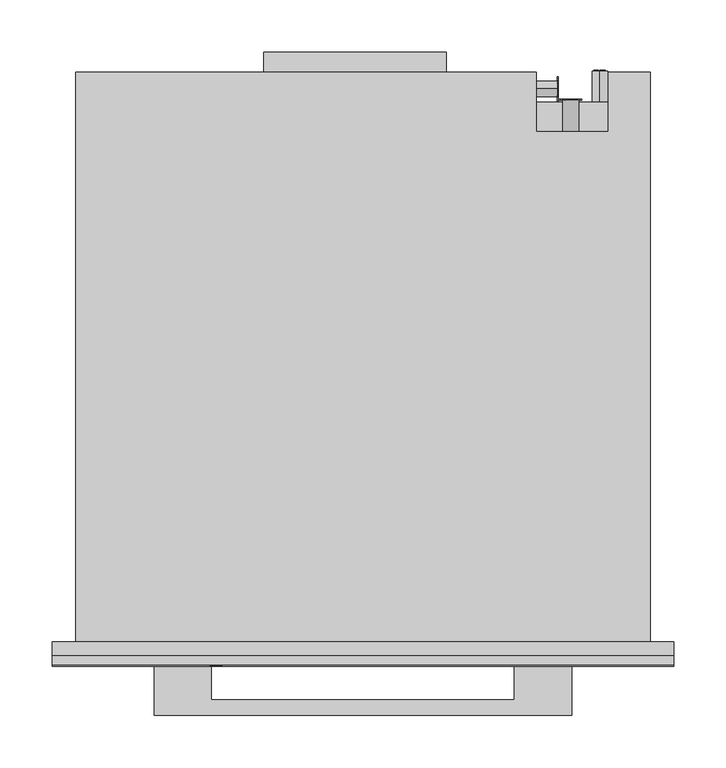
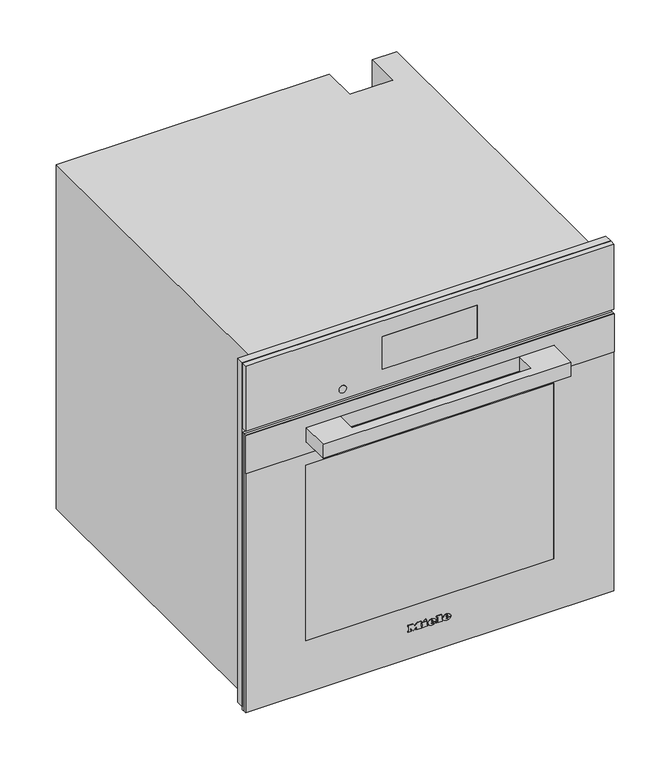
"""IFC4 building model written with IfcOpenShell, lengths in millimetres: proxy geometry, 11877020_USA_DGC7865_EDST-CLST : 23786543_USA_11877020_DGC7865_EDST-CLST."""

from ifc_helpers import new_model, si_unit, point, frame, frame_2d, origin, place, context, project, spatial, polyline, circle_curve, ellipse_curve, trimmed, segment, composite_curve, outline, extrude, faceted_brep, source, transform, mapped, element, save
from ifc_brep_helpers import plane_surface, cylinder_surface, revolved_surface, extruded_surface, advanced_brep


def specialty_equipment_5517ea6e(model_context):
    return source(origin(), model_context, "Body", "SolidModel", [
        extrude(outline(polyline([(596.0, 297.5), (596.0, -297.5), (9.0, -297.5), (9.0, 297.5), (596.0, 297.5)]), holes=[polyline([(485.0, -272.5), (485.0, 272.5), (27.0, 272.5), (27.0, -272.5), (485.0, -272.5)])]), frame((0.0, -13.0, 0.0), z_axis=(0.0, 1.0, 0.0), x_axis=(0.0, 0.0, 1.0)), (0.0, 0.0, 1.0), 13.0),
        extrude(outline(polyline([(-95.0, 565.0), (80.0, 565.0), (80.0, 546.0), (-95.0, 546.0), (-95.0, 565.0)])), frame((0.0, 0.0, 311.0), z_axis=(0.0, 0.0, 1.0), x_axis=(1.0, 0.0, 0.0)), (0.0, 0.0, 1.0), 1.0),
        extrude(outline(polyline([(519.6429442, 19.9943805), (518.3113439, 19.9943805), (522.3179353, 30.0448542), (523.3959224, 30.0448542), (527.4062166, 20.0), (526.0536081, 20.0), (524.9175759, 23.121223), (520.7810217, 23.121223), (519.6429442, 19.9943805)]), holes=[polyline([(521.2587176, 24.4336815), (524.43988, 24.4336815), (522.8492988, 28.8037675), (521.2587176, 24.4336815)])]), frame((186.0, 0.0, 0.0), z_axis=(1.0, 0.0, 0.0), x_axis=(0.0, 1.0, 0.0)), (0.0, 0.0, 1.0), 1.0),
        extrude(outline(polyline([(530.5321321, 20.0), (527.8018067, 30.0490432), (529.0968223, 30.0490432), (531.1602937, 21.4201336), (533.686646, 30.0556718), (535.5455392, 30.0556718), (538.1024658, 21.4662572), (540.1658975, 30.0556718), (541.4634812, 30.0556718), (538.7128319, 20.0), (537.3799359, 20.0), (534.6350025, 28.8403806), (532.048723, 20.0), (530.5321321, 20.0)])), frame((186.0, 0.0, 0.0), z_axis=(1.0, 0.0, 0.0), x_axis=(0.0, 1.0, 0.0)), (0.0, 0.0, 1.0), 1.0),
        extrude(outline(polyline([(523.0, 196.9217896), (523.0, 198.4267862), (533.0435673, 201.1942402), (533.0435673, 199.9014806), (524.4295103, 197.7797951), (533.0470645, 195.3087512), (533.0470645, 193.4373937), (524.4121052, 190.9191482), (533.0472266, 188.8443938), (533.0472266, 187.5376524), (523.0, 190.2769667), (523.0, 191.6257455), (531.8347238, 194.3884733), (523.0, 196.9217896)])), frame((0.0, 519.0, 0.0), z_axis=(0.0, 1.0, 0.0), x_axis=(0.0, 0.0, 1.0)), (0.0, 0.0, 1.0), 1.0),
        extrude(outline(polyline([(533.0468463, 209.521488), (533.0468463, 208.2566067), (528.129594, 208.2566067), (533.0474898, 203.1074328), (533.0474898, 201.3597489), (528.9313111, 205.6695027), (523.0, 201.1858157), (523.0, 202.7358731), (528.0700777, 206.5685235), (526.4282746, 208.2823622), (523.0, 208.2823622), (523.0, 209.521488), (533.0468463, 209.521488)])), frame((0.0, 519.0, 0.0), z_axis=(0.0, 1.0, 0.0), x_axis=(0.0, 0.0, 1.0)), (0.0, 0.0, 1.0), 1.0),
        advanced_brep(
        [(227.0, 547.0, 396.5), (227.0, 547.0, 381.5), (221.4098301, 547.0, 384.0), (225.5, 547.0, 384.0), (225.5, 547.0, 394.0), (224.4955303, 547.0, 394.0), (224.4955303, 547.0, 385.0), (221.0315043, 547.0, 385.0), (221.0315043, 547.0, 384.4582978), (232.0, 547.0, 384.0), (232.0, 547.0, 394.0), (227.0, 547.0, 394.0), (227.0, 547.0, 393.0), (231.0, 547.0, 393.0), (231.0, 547.0, 389.5), (228.0, 547.0, 389.5), (228.0, 547.0, 388.5), (231.0, 547.0, 388.5), (231.0, 547.0, 385.0), (227.0, 547.0, 385.0), (227.0, 547.0, 384.0), (227.0, 517.0, 381.5), (227.0, 517.0, 396.5), (232.0, 548.0, 394.0), (232.0, 548.0, 384.0), (227.0, 548.0, 384.0), (227.0, 548.0, 385.0), (231.0, 548.0, 385.0), (231.0, 548.0, 388.5), (228.0, 548.0, 388.5), (228.0, 548.0, 389.5), (231.0, 548.0, 389.5), (231.0, 548.0, 393.0), (227.0, 548.0, 393.0), (227.0, 548.0, 394.0), (225.5, 548.0, 384.0), (221.0315043, 548.0, 384.0), (221.0315043, 548.0, 385.0), (224.4955303, 548.0, 385.0), (224.4955303, 548.0, 394.0), (225.5, 548.0, 394.0), (221.0315043, 547.0, 384.0)],
        [
            (0, 1, circle_curve(frame((227.0, 547.0, 389.0), z_axis=(0.0, 1.0, 0.0), x_axis=(0.0, 0.0, 1.0)), 7.5)),
            (1, 2, circle_curve(frame((227.0, 547.0, 389.0), z_axis=(0.0, 1.0, 0.0), x_axis=(0.0, 0.0, 1.0)), 7.5)),
            (2, 3),
            (3, 4),
            (4, 5),
            (5, 6),
            (6, 7),
            (7, 8),
            (8, 0, circle_curve(frame((227.0, 547.0, 389.0), z_axis=(0.0, 1.0, 0.0), x_axis=(0.0, 0.0, 1.0)), 7.5)),
            (9, 10),
            (10, 11),
            (11, 12),
            (12, 13),
            (13, 14),
            (14, 15),
            (15, 16),
            (16, 17),
            (17, 18),
            (18, 19),
            (19, 20),
            (20, 9),
            (21, 22, circle_curve(frame((227.0, 517.0, 389.0), z_axis=(0.0, -1.0, 0.0), x_axis=(0.0, 0.0, 1.0)), 7.5)),
            (22, 21, circle_curve(frame((227.0, 517.0, 389.0), z_axis=(0.0, -1.0, 0.0), x_axis=(0.0, 0.0, 1.0)), 7.5)),
            (0, 22),
            (21, 1),
            (8, 2, circle_curve(frame((227.0, 547.0, 389.0), z_axis=(0.0, -1.0, 0.0), x_axis=(0.0, 0.0, 1.0)), 7.5)),
            (23, 24),
            (24, 25),
            (25, 26),
            (26, 27),
            (27, 28),
            (28, 29),
            (29, 30),
            (30, 31),
            (31, 32),
            (32, 33),
            (33, 34),
            (34, 23),
            (35, 36),
            (36, 37),
            (37, 38),
            (38, 39),
            (39, 40),
            (40, 35),
            (8, 41),
            (41, 2),
            (23, 10),
            (9, 24),
            (20, 25),
            (19, 26),
            (18, 27),
            (17, 28),
            (16, 29),
            (15, 30),
            (14, 31),
            (13, 32),
            (12, 33),
            (11, 34),
            (35, 3),
            (41, 36),
            (7, 37),
            (6, 38),
            (5, 39),
            (4, 40),
        ],
        [
            plane_surface(frame((227.0, 547.0, 396.5), z_axis=(0.0, 1.0, 0.0), x_axis=(1.0, 0.0, 0.0))),
            plane_surface(frame((227.0, 517.0, 396.5), z_axis=(0.0, -1.0, 0.0), x_axis=(-1.0, 0.0, 0.0))),
            cylinder_surface(frame((227.0, 547.0, 389.0), z_axis=(0.0, -1.0, 0.0), x_axis=(0.0, 0.0, 1.0)), 7.5),
            plane_surface(frame((232.0, 548.0, 394.0), z_axis=(0.0, 1.0, 0.0), x_axis=(0.0, 0.0, -1.0))),
            plane_surface(frame((232.0, 547.0, 394.0), z_axis=(0.0, -1.0, 0.0), x_axis=(0.0, 0.0, 1.0))),
            plane_surface(frame((232.0, 548.0, 394.0), z_axis=(1.0, 0.0, 0.0), x_axis=(0.0, -1.0, 0.0))),
            plane_surface(frame((232.0, 548.0, 384.0), z_axis=(0.0, 0.0, -1.0), x_axis=(0.0, -1.0, 0.0))),
            plane_surface(frame((227.0, 548.0, 384.0), z_axis=(-1.0, 0.0, 0.0), x_axis=(0.0, -1.0, 0.0))),
            plane_surface(frame((227.0, 548.0, 385.0), z_axis=(0.0, 0.0, 1.0), x_axis=(0.0, -1.0, 0.0))),
            plane_surface(frame((231.0, 548.0, 385.0), z_axis=(-1.0, 0.0, 0.0), x_axis=(0.0, -1.0, 0.0))),
            plane_surface(frame((231.0, 548.0, 388.5), z_axis=(0.0, 0.0, -1.0), x_axis=(0.0, -1.0, 0.0))),
            plane_surface(frame((228.0, 548.0, 388.5), z_axis=(-1.0, 0.0, 0.0), x_axis=(0.0, -1.0, 0.0))),
            plane_surface(frame((228.0, 548.0, 389.5), z_axis=(0.0, 0.0, 1.0), x_axis=(0.0, -1.0, 0.0))),
            plane_surface(frame((231.0, 548.0, 389.5), z_axis=(-1.0, 0.0, 0.0), x_axis=(0.0, -1.0, 0.0))),
            plane_surface(frame((231.0, 548.0, 393.0), z_axis=(0.0, 0.0, -1.0), x_axis=(0.0, -1.0, 0.0))),
            plane_surface(frame((227.0, 548.0, 393.0), z_axis=(-1.0, 0.0, 0.0), x_axis=(0.0, -1.0, 0.0))),
            plane_surface(frame((227.0, 548.0, 394.0), z_axis=(0.0, 0.0, 1.0), x_axis=(0.0, -1.0, 0.0))),
            plane_surface(frame((225.5, 548.0, 384.0), z_axis=(0.0, 0.0, -1.0), x_axis=(0.0, -1.0, 0.0))),
            plane_surface(frame((221.0315043, 548.0, 384.0), z_axis=(-1.0, 0.0, 0.0), x_axis=(0.0, -1.0, 0.0))),
            plane_surface(frame((221.0315043, 548.0, 385.0), z_axis=(0.0, 0.0, 1.0), x_axis=(0.0, -1.0, 0.0))),
            plane_surface(frame((224.4955303, 548.0, 385.0), z_axis=(-1.0, 0.0, 0.0), x_axis=(0.0, -1.0, 0.0))),
            plane_surface(frame((224.4955303, 548.0, 394.0), z_axis=(0.0, 0.0, 1.0), x_axis=(0.0, -1.0, 0.0))),
            plane_surface(frame((225.5, 548.0, 394.0), z_axis=(1.0, 0.0, 0.0), x_axis=(0.0, -1.0, 0.0))),
        ],
        [
            (0, [[1, 2, 3, 4, 5, 6, 7, 8, 9], [10, 11, 12, 13, 14, 15, 16, 17, 18, 19, 20, 21]]),
            (1, [[22, 23]]),
            (2, [[-1, 24, -22, 25]]),
            (2, [[-23, -24, -9, 26, -2, -25]]),
            (3, [[27, 28, 29, 30, 31, 32, 33, 34, 35, 36, 37, 38]]),
            (3, [[39, 40, 41, 42, 43, 44]]),
            (4, [[45, 46, -26]]),
            (5, [[-27, 47, -10, 48]]),
            (6, [[-28, -48, -21, 49]]),
            (7, [[-29, -49, -20, 50]]),
            (8, [[-30, -50, -19, 51]]),
            (9, [[-31, -51, -18, 52]]),
            (10, [[-32, -52, -17, 53]]),
            (11, [[-33, -53, -16, 54]]),
            (12, [[-34, -54, -15, 55]]),
            (13, [[-35, -55, -14, 56]]),
            (14, [[-36, -56, -13, 57]]),
            (15, [[-37, -57, -12, 58]]),
            (16, [[-38, -58, -11, -47]]),
            (17, [[-39, 59, -3, -46, 60]]),
            (18, [[-40, -60, -45, -8, 61]]),
            (19, [[-41, -61, -7, 62]]),
            (20, [[-42, -62, -6, 63]]),
            (21, [[-43, -63, -5, 64]]),
            (22, [[-44, -64, -4, -59]]),
        ],
    ),
        extrude(outline(composite_curve([segment(trimmed(circle_curve(frame_2d((528.0, 199.0)), 7.5), [point((528.0, 206.5))], [point((528.0, 191.5))], False, "CARTESIAN"), True, "CONTINUOUS"), segment(trimmed(circle_curve(frame_2d((528.0, 199.0)), 7.5), [point((528.0, 191.5))], [point((528.0, 206.5))], False, "CARTESIAN"), True, "CONTINUOUS")], self_intersect=False)), frame((0.0, 489.0, 0.0), z_axis=(0.0, 1.0, 0.0), x_axis=(0.0, 0.0, 1.0)), (0.0, 0.0, 1.0), 30.0),
        extrude(outline(composite_curve([segment(trimmed(circle_curve(frame_2d((530.0, 25.0)), 7.5), [point((530.0, 17.5))], [point((530.0, 32.5))], False, "CARTESIAN"), True, "CONTINUOUS"), segment(trimmed(circle_curve(frame_2d((530.0, 25.0)), 7.5), [point((530.0, 32.5))], [point((530.0, 17.5))], False, "CARTESIAN"), True, "CONTINUOUS")], self_intersect=False)), frame((166.0, 0.0, 0.0), z_axis=(1.0, 0.0, 0.0), x_axis=(0.0, 1.0, 0.0)), (0.0, 0.0, 1.0), 20.0),
        faceted_brep([(-275.0, 546.0, 0.0), (-275.0, 546.0, 588.0), (166.0, 546.0, 588.0), (166.0, 546.0, 0.0), (235.0, 546.0, 588.0), (275.0, 546.0, 588.0), (275.0, 546.0, 478.0), (235.0, 546.0, 478.0), (275.0, 0.0, 588.0), (-275.0, 0.0, 588.0), (-275.0, 0.0, 0.0), (275.0, 0.0, 0.0), (-272.5, 0.0, 485.0), (272.5, 0.0, 485.0), (272.5, 0.0, 27.0), (-272.5, 0.0, 27.0), (235.0, 489.0, 588.0), (166.0, 489.0, 588.0), (166.0, 517.0, 0.0), (275.0, 517.0, 0.0), (275.0, 517.0, 478.0), (272.5, 17.0, 485.0), (-272.5, 17.0, 485.0), (-272.5, 17.0, 27.0), (272.5, 17.0, 27.0), (231.0, 17.0, 409.0), (231.0, 17.0, 61.0), (-231.0, 17.0, 61.0), (-231.0, 17.0, 409.0), (231.0, 411.0, 409.0), (-231.0, 411.0, 409.0), (-231.0, 411.0, 61.0), (231.0, 411.0, 61.0), (235.0, 489.0, 477.0), (166.0, 489.0, 477.0), (166.0, 517.0, 477.0), (235.0, 517.0, 477.0), (235.0, 517.0, 478.0)], [[[0, 1, 2, 3]], [[4, 5, 6, 7]], [[8, 9, 10, 11], [12, 13, 14, 15]], [[9, 8, 5, 4, 16, 17, 2, 1]], [[1, 0, 10, 9]], [[11, 10, 0, 3, 18, 19]], [[8, 11, 19, 20, 6, 5]], [[21, 22, 23, 24], [25, 26, 27, 28]], [[22, 21, 13, 12]], [[23, 22, 12, 15]], [[24, 23, 15, 14]], [[21, 24, 14, 13]], [[29, 30, 31, 32]], [[29, 32, 26, 25]], [[32, 31, 27, 26]], [[31, 30, 28, 27]], [[30, 29, 25, 28]], [[16, 33, 34, 17]], [[17, 34, 35, 18, 3, 2]], [[34, 33, 36, 35]], [[33, 16, 4, 7, 37, 36]], [[37, 20, 19, 18, 35, 36]], [[20, 37, 7, 6]]]),
        advanced_brep(
        [(26.2998, -23.0, 52.7018), (26.2998, -23.0, 53.8532), (33.9264, -23.0, 53.8532), (20.6568, -23.0, 53.8532), (23.7918, -23.0, 50.0), (33.7326, -23.0, 52.7018), (30.2898, -23.0, 52.7018), (27.5766, -23.0, 51.425), (26.2998, -23.0, 55.3124), (26.2998, -23.0, 56.555), (28.2492, -23.0, 56.555), (28.2492, -23.0, 55.3124), (26.2998, -22.0, 52.7018), (27.5766, -22.0, 51.425), (30.2898, -22.0, 52.7018), (33.7326, -22.0, 52.7018), (23.7918, -22.0, 50.0), (20.6568, -22.0, 53.8532), (33.9264, -22.0, 53.8532), (26.2998, -22.0, 53.8532), (26.2998, -22.0, 55.3124), (28.2492, -22.0, 55.3124), (28.2492, -22.0, 56.555), (26.2998, -22.0, 56.555)],
        [
            (0, 1),
            (1, 2),
            (2, 3, ellipse_curve(frame((27.2916, -23.0, 53.8532), z_axis=(0.0, -1.0, 0.0), x_axis=(-1.0, 0.0, 0.0)), 6.6348, 5.4834)),
            (3, 4, circle_curve(frame((25.0686622, -23.0, 54.2408), z_axis=(0.0, -1.0, 0.0), x_axis=(0.0, 0.0, -1.0)), 4.4288556)),
            (4, 5, circle_curve(frame((27.1587808, -23.0, 57.2504), z_axis=(0.0, -1.0, 0.0), x_axis=(0.0, 0.0, -1.0)), 7.9940516)),
            (5, 6),
            (6, 7, circle_curve(frame((28.1338588, -23.0, 53.762), z_axis=(0.0, 1.0, 0.0), x_axis=(0.0, 0.0, -1.0)), 2.4025208)),
            (7, 0, circle_curve(frame((27.5766, -23.0, 52.7018), z_axis=(0.0, 1.0, 0.0), x_axis=(0.0, 0.0, -1.0)), 1.2768)),
            (8, 9),
            (9, 10, circle_curve(frame((27.2745, -23.0, 56.555), z_axis=(0.0, 1.0, 0.0), x_axis=(0.0, 0.0, -1.0)), 0.9747)),
            (10, 11),
            (11, 8),
            (12, 13, circle_curve(frame((27.5766, -22.0, 52.7018), z_axis=(0.0, -1.0, 0.0), x_axis=(0.0, 0.0, -1.0)), 1.2768)),
            (13, 14, circle_curve(frame((28.1338588, -22.0, 53.762), z_axis=(0.0, -1.0, 0.0), x_axis=(0.0, 0.0, -1.0)), 2.4025208)),
            (14, 15),
            (15, 16, circle_curve(frame((27.1587808, -22.0, 57.2504), z_axis=(0.0, 1.0, 0.0), x_axis=(0.0, 0.0, -1.0)), 7.9940516)),
            (16, 17, circle_curve(frame((25.0686622, -22.0, 54.2408), z_axis=(0.0, 1.0, 0.0), x_axis=(0.0, 0.0, -1.0)), 4.4288556)),
            (17, 18, ellipse_curve(frame((27.2916, -22.0, 53.8532), z_axis=(0.0, 1.0, 0.0), x_axis=(-1.0, 0.0, 0.0)), 6.6348, 5.4834)),
            (18, 19),
            (19, 12),
            (20, 21),
            (21, 22),
            (22, 23, circle_curve(frame((27.2745, -22.0, 56.555), z_axis=(0.0, -1.0, 0.0), x_axis=(0.0, 0.0, -1.0)), 0.9747)),
            (23, 20),
            (0, 12),
            (19, 1),
            (18, 2),
            (5, 15),
            (14, 6),
            (17, 3),
            (13, 7),
            (16, 4),
            (8, 20),
            (23, 9),
            (22, 10),
            (21, 11),
        ],
        [
            plane_surface(frame((26.2998, -23.0, 53.8532), z_axis=(0.0, -1.0, 0.0), x_axis=(0.0, 0.0, 1.0))),
            plane_surface(frame((26.2998, -22.0, 53.8532), z_axis=(0.0, 1.0, 0.0), x_axis=(0.0, 0.0, -1.0))),
            plane_surface(frame((26.2998, -23.0, 52.7018), z_axis=(1.0, 0.0, 0.0), x_axis=(0.0, 1.0, 0.0))),
            plane_surface(frame((26.2998, -23.0, 53.8532), z_axis=(0.0, 0.0, -1.0), x_axis=(0.0, 1.0, 0.0))),
            plane_surface(frame((33.7326, -23.0, 52.7018), z_axis=(0.0, 0.0, 1.0), x_axis=(0.0, 1.0, 0.0))),
            extruded_surface(trimmed(ellipse_curve(frame((27.2916, -21.0, 53.8532), z_axis=(0.0, -1.0, 0.0), x_axis=(-1.0, 0.0, 0.0)), 6.6348, 5.4834), [point((33.9264, -21.0, 53.8532))], [point((20.6568, -21.0, 53.8532))], True, "CARTESIAN"), (0.0, -1.0, 0.0), 1.0),
            revolved_surface(polyline([(28.1338588, -22.0, 51.3594792), (28.1338588, -23.0, 51.3594792)]), (28.1338588, -22.0, 53.762), (0.0, 1.0, 0.0)),
            revolved_surface(polyline([(27.5766, -22.0, 51.425), (27.5766, -23.0, 51.425)]), (27.5766, -22.0, 52.7018), (0.0, 1.0, 0.0)),
            cylinder_surface(frame((25.0686622, -22.0, 54.2408), z_axis=(0.0, -1.0, 0.0), x_axis=(0.0, 0.0, -1.0)), 4.4288556),
            cylinder_surface(frame((27.1587808, -22.0, 57.2504), z_axis=(0.0, -1.0, 0.0), x_axis=(0.0, 0.0, -1.0)), 7.9940516),
            plane_surface(frame((26.2998, -23.0, 55.3124), z_axis=(1.0, 0.0, 0.0), x_axis=(0.0, 1.0, 0.0))),
            revolved_surface(polyline([(27.2745, -22.0, 55.5803), (27.2745, -23.0, 55.5803)]), (27.2745, -22.0, 56.555), (0.0, 1.0, 0.0)),
            plane_surface(frame((28.2492, -23.0, 56.555), z_axis=(-1.0, 0.0, 0.0), x_axis=(0.0, 1.0, 0.0))),
            plane_surface(frame((28.2492, -23.0, 55.3124), z_axis=(0.0, 0.0, 1.0), x_axis=(0.0, 1.0, 0.0))),
        ],
        [
            (0, [[1, 2, 3, 4, 5, 6, 7, 8], [9, 10, 11, 12]]),
            (1, [[13, 14, 15, 16, 17, 18, 19, 20], [21, 22, 23, 24]]),
            (2, [[-1, 25, -20, 26]]),
            (3, [[-2, -26, -19, 27]]),
            (4, [[-6, 28, -15, 29]]),
            (5, [[-3, -27, -18, 30]]),
            (6, [[-7, -29, -14, 31]]),
            (7, [[-8, -31, -13, -25]]),
            (8, [[-4, -30, -17, 32]]),
            (9, [[-5, -32, -16, -28]]),
            (10, [[-9, 33, -24, 34]]),
            (11, [[-10, -34, -23, 35]]),
            (12, [[-11, -35, -22, 36]]),
            (13, [[-12, -36, -21, -33]]),
        ],
    ),
        advanced_brep(
        [(2.508, -23.0, 52.7018), (2.508, -23.0, 53.8532), (10.1346, -23.0, 53.8532), (-3.135, -23.0, 53.8532), (0.0, -23.0, 50.0), (9.9408, -23.0, 52.7018), (6.498, -23.0, 52.7018), (3.7848, -23.0, 51.425), (2.508, -23.0, 55.3124), (2.508, -23.0, 56.555), (4.4574, -23.0, 56.555), (4.4574, -23.0, 55.3124), (2.508, -22.0, 52.7018), (3.7848, -22.0, 51.425), (6.498, -22.0, 52.7018), (9.9408, -22.0, 52.7018), (0.0, -22.0, 50.0), (-3.135, -22.0, 53.8532), (10.1346, -22.0, 53.8532), (2.508, -22.0, 53.8532), (2.508, -22.0, 55.3124), (4.4574, -22.0, 55.3124), (4.4574, -22.0, 56.555), (2.508, -22.0, 56.555)],
        [
            (0, 1),
            (1, 2),
            (2, 3, ellipse_curve(frame((3.4998, -23.0, 53.8532), z_axis=(0.0, -1.0, 0.0), x_axis=(-1.0, 0.0, 0.0)), 6.6348, 5.4834)),
            (3, 4, circle_curve(frame((1.2768622, -23.0, 54.2408), z_axis=(0.0, -1.0, 0.0), x_axis=(0.0, 0.0, -1.0)), 4.4288556)),
            (4, 5, circle_curve(frame((3.3669808, -23.0, 57.2504), z_axis=(0.0, -1.0, 0.0), x_axis=(0.0, 0.0, -1.0)), 7.9940516)),
            (5, 6),
            (6, 7, circle_curve(frame((4.3420588, -23.0, 53.762), z_axis=(0.0, 1.0, 0.0), x_axis=(0.0, 0.0, -1.0)), 2.4025208)),
            (7, 0, circle_curve(frame((3.7848, -23.0, 52.7018), z_axis=(0.0, 1.0, 0.0), x_axis=(0.0, 0.0, -1.0)), 1.2768)),
            (8, 9),
            (9, 10, circle_curve(frame((3.4827, -23.0, 56.555), z_axis=(0.0, 1.0, 0.0), x_axis=(0.0, 0.0, -1.0)), 0.9747)),
            (10, 11),
            (11, 8),
            (12, 13, circle_curve(frame((3.7848, -22.0, 52.7018), z_axis=(0.0, -1.0, 0.0), x_axis=(0.0, 0.0, -1.0)), 1.2768)),
            (13, 14, circle_curve(frame((4.3420588, -22.0, 53.762), z_axis=(0.0, -1.0, 0.0), x_axis=(0.0, 0.0, -1.0)), 2.4025208)),
            (14, 15),
            (15, 16, circle_curve(frame((3.3669808, -22.0, 57.2504), z_axis=(0.0, 1.0, 0.0), x_axis=(0.0, 0.0, -1.0)), 7.9940516)),
            (16, 17, circle_curve(frame((1.2768622, -22.0, 54.2408), z_axis=(0.0, 1.0, 0.0), x_axis=(0.0, 0.0, -1.0)), 4.4288556)),
            (17, 18, ellipse_curve(frame((3.4998, -22.0, 53.8532), z_axis=(0.0, 1.0, 0.0), x_axis=(-1.0, 0.0, 0.0)), 6.6348, 5.4834)),
            (18, 19),
            (19, 12),
            (20, 21),
            (21, 22),
            (22, 23, circle_curve(frame((3.4827, -22.0, 56.555), z_axis=(0.0, -1.0, 0.0), x_axis=(0.0, 0.0, -1.0)), 0.9747)),
            (23, 20),
            (0, 12),
            (19, 1),
            (18, 2),
            (5, 15),
            (14, 6),
            (17, 3),
            (13, 7),
            (16, 4),
            (8, 20),
            (23, 9),
            (22, 10),
            (21, 11),
        ],
        [
            plane_surface(frame((2.508, -23.0, 53.8532), z_axis=(0.0, -1.0, 0.0), x_axis=(0.0, 0.0, 1.0))),
            plane_surface(frame((2.508, -22.0, 53.8532), z_axis=(0.0, 1.0, 0.0), x_axis=(0.0, 0.0, -1.0))),
            plane_surface(frame((2.508, -23.0, 52.7018), z_axis=(1.0, 0.0, 0.0), x_axis=(0.0, 1.0, 0.0))),
            plane_surface(frame((2.508, -23.0, 53.8532), z_axis=(0.0, 0.0, -1.0), x_axis=(0.0, 1.0, 0.0))),
            plane_surface(frame((9.9408, -23.0, 52.7018), z_axis=(0.0, 0.0, 1.0), x_axis=(0.0, 1.0, 0.0))),
            extruded_surface(trimmed(ellipse_curve(frame((3.4998, -21.0, 53.8532), z_axis=(0.0, -1.0, 0.0), x_axis=(-1.0, 0.0, 0.0)), 6.6348, 5.4834), [point((10.1346, -21.0, 53.8532))], [point((-3.135, -21.0, 53.8532))], True, "CARTESIAN"), (0.0, -1.0, 0.0), 1.0),
            revolved_surface(polyline([(4.3420588, -22.0, 51.3594792), (4.3420588, -23.0, 51.3594792)]), (4.3420588, -22.0, 53.762), (0.0, 1.0, 0.0)),
            revolved_surface(polyline([(3.7848, -22.0, 51.425), (3.7848, -23.0, 51.425)]), (3.7848, -22.0, 52.7018), (0.0, 1.0, 0.0)),
            cylinder_surface(frame((1.2768622, -22.0, 54.2408), z_axis=(0.0, -1.0, 0.0), x_axis=(0.0, 0.0, -1.0)), 4.4288556),
            cylinder_surface(frame((3.3669808, -22.0, 57.2504), z_axis=(0.0, -1.0, 0.0), x_axis=(0.0, 0.0, -1.0)), 7.9940516),
            plane_surface(frame((2.508, -23.0, 55.3124), z_axis=(1.0, 0.0, 0.0), x_axis=(0.0, 1.0, 0.0))),
            revolved_surface(polyline([(3.4827, -22.0, 55.5803), (3.4827, -23.0, 55.5803)]), (3.4827, -22.0, 56.555), (0.0, 1.0, 0.0)),
            plane_surface(frame((4.4574, -23.0, 56.555), z_axis=(-1.0, 0.0, 0.0), x_axis=(0.0, 1.0, 0.0))),
            plane_surface(frame((4.4574, -23.0, 55.3124), z_axis=(0.0, 0.0, 1.0), x_axis=(0.0, 1.0, 0.0))),
        ],
        [
            (0, [[1, 2, 3, 4, 5, 6, 7, 8], [9, 10, 11, 12]]),
            (1, [[13, 14, 15, 16, 17, 18, 19, 20], [21, 22, 23, 24]]),
            (2, [[-1, 25, -20, 26]]),
            (3, [[-2, -26, -19, 27]]),
            (4, [[-6, 28, -15, 29]]),
            (5, [[-3, -27, -18, 30]]),
            (6, [[-7, -29, -14, 31]]),
            (7, [[-8, -31, -13, -25]]),
            (8, [[-4, -30, -17, 32]]),
            (9, [[-5, -32, -16, -28]]),
            (10, [[-9, 33, -24, 34]]),
            (11, [[-10, -34, -23, 35]]),
            (12, [[-11, -35, -22, 36]]),
            (13, [[-12, -36, -21, -33]]),
        ],
    ),
        extrude(outline(polyline([(60.7274, -9.9522), (58.8806, -9.0858), (60.6818, -5.2212), (62.5286, -6.0762), (60.7274, -9.9522)])), frame((0.0, -23.0, 0.0), z_axis=(0.0, 1.0, 0.0), x_axis=(0.0, 0.0, 1.0)), (0.0, 0.0, 1.0), 1.0),
        extrude(outline(polyline([(58.6298, -12.768), (56.5892, -12.768), (56.5892, -11.4114), (51.9152, -11.4114), (51.9152, -12.768), (50.0, -12.768), (50.0, -3.7734), (51.9152, -3.7734), (51.9152, -5.0958), (58.6298, -5.0958), (58.6298, -12.768)])), frame((0.0, -23.0, 0.0), z_axis=(0.0, 1.0, 0.0), x_axis=(0.0, 0.0, 1.0)), (0.0, 0.0, 1.0), 1.0),
        extrude(outline(polyline([(59.5418, 10.773), (59.5418, 12.141), (51.9152, 12.141), (51.9152, 10.773), (50.0, 10.773), (50.0, 20.0184), (51.9152, 20.0184), (51.9152, 18.6162), (61.4, 18.6162), (61.4, 10.773), (59.5418, 10.773)])), frame((0.0, -23.0, 0.0), z_axis=(0.0, 1.0, 0.0), x_axis=(0.0, 0.0, 1.0)), (0.0, 0.0, 1.0), 1.0),
        extrude(outline(polyline([(59.5418, -35.4882), (59.5418, -34.1088), (51.9152, -34.1088), (51.9152, -35.4882), (50.0, -35.4882), (50.0, -30.4722), (51.9152, -30.4722), (51.9152, -31.8402), (56.7429247, -31.8402), (50.0, -26.7444), (56.9402223, -21.6258), (51.9152, -21.6258), (51.9152, -23.028), (50.0, -23.028), (50.0, -13.9308), (51.9152, -13.9308), (51.9152, -15.3786), (59.5418, -15.3786), (59.5418, -13.9308), (61.4, -13.9308), (61.4, -20.8734), (57.125, -24.2022), (61.4, -27.5424), (61.4, -35.4882), (59.5418, -35.4882)])), frame((0.0, -23.0, 0.0), z_axis=(0.0, 1.0, 0.0), x_axis=(0.0, 0.0, 1.0)), (0.0, 0.0, 1.0), 1.0),
        extrude(outline(composite_curve([segment(trimmed(circle_curve(frame_2d((502.0, -140.5745637)), 6.0), [point((502.0, -146.5745637))], [point((502.0, -134.5745637))], False, "CARTESIAN"), True, "CONTINUOUS"), segment(trimmed(circle_curve(frame_2d((502.0, -140.5745637)), 6.0), [point((502.0, -134.5745637))], [point((502.0, -146.5745637))], False, "CARTESIAN"), True, "CONTINUOUS")], self_intersect=False)), frame((0.0, -22.5, 0.0), z_axis=(0.0, 1.0, 0.0), x_axis=(0.0, 0.0, 1.0)), (0.0, 0.0, 1.0), 1.0),
        extrude(outline(polyline([(-76.5, -21.0), (76.5, -21.0), (76.5, -22.0), (-76.5, -22.0), (-76.5, -21.0)])), frame((0.0, 0.0, 513.0), z_axis=(0.0, 0.0, 1.0), x_axis=(1.0, 0.0, 0.0)), (0.0, 0.0, 1.0), 56.0),
        faceted_brep([(297.5, -22.0, 596.0), (-297.5, -22.0, 596.0), (-297.5, -22.0, 485.0), (297.5, -22.0, 485.0), (76.5, -22.0, 569.0), (76.5, -22.0, 513.0), (-76.5, -22.0, 513.0), (-76.5, -22.0, 569.0), (297.5, -13.0, 596.0), (297.5, -13.0, 485.0), (-297.5, -13.0, 485.0), (-297.5, -13.0, 596.0), (76.5, -21.0, 569.0), (-76.5, -21.0, 569.0), (-76.5, -21.0, 513.0), (76.5, -21.0, 513.0)], [[[0, 1, 2, 3], [4, 5, 6, 7]], [[8, 9, 10, 11]], [[1, 0, 8, 11]], [[2, 1, 11, 10]], [[3, 2, 10, 9]], [[0, 3, 9, 8]], [[12, 13, 14, 15]], [[12, 15, 5, 4]], [[15, 14, 6, 5]], [[14, 13, 7, 6]], [[13, 12, 4, 7]]]),
        extrude(outline(polyline([(200.0, -22.0), (-200.0, -22.0), (-200.0, -18.0), (200.0, -18.0), (200.0, -22.0)])), frame((0.0, 0.0, 92.5), z_axis=(0.0, 0.0, 1.0), x_axis=(1.0, 0.0, 0.0)), (0.0, 0.0, 1.0), 300.0),
        extrude(outline(polyline([(478.0, 297.5), (478.0, -297.5), (4.0, -297.5), (4.0, 297.5), (478.0, 297.5)]), holes=[polyline([(392.5, -200.0), (392.5, 200.0), (92.5, 200.0), (92.5, -200.0), (392.5, -200.0)])]), frame((0.0, -22.0, 0.0), z_axis=(0.0, 1.0, 0.0), x_axis=(0.0, 0.0, 1.0)), (0.0, 0.0, 1.0), 4.0),
        extrude(outline(polyline([(478.0, 297.5), (478.0, -297.5), (413.0, -297.5), (413.0, 297.5), (478.0, 297.5)]), holes=[polyline([(458.0, -200.5), (458.0, 200.5), (433.0, 200.5), (433.0, -200.5), (458.0, -200.5)])]), frame((0.0, -23.3, 0.0), z_axis=(0.0, 1.0, 0.0), x_axis=(0.0, 0.0, 1.0)), (0.0, 0.0, 1.0), 1.3),
        extrude(outline(polyline([(-200.0, -70.3), (-200.0, -22.0), (-145.0, -22.0), (-145.0, -55.3), (145.0, -55.3), (145.0, -22.0), (200.0, -22.0), (200.0, -70.3), (-200.0, -70.3)])), frame((0.0, 0.0, 433.5), z_axis=(0.0, 0.0, 1.0), x_axis=(1.0, 0.0, 0.0)), (0.0, 0.0, 1.0), 24.0),
        extrude(outline(polyline([(297.5, -18.0), (-297.5, -18.0), (-297.5, -13.0), (297.5, -13.0), (297.5, -18.0)])), frame((0.0, 0.0, 4.0), z_axis=(0.0, 0.0, 1.0), x_axis=(1.0, 0.0, 0.0)), (0.0, 0.0, 1.0), 474.0),
    ])


if __name__ == "__main__":
    model = new_model("IFC4")
    model_context = context("Model", 3, world=origin())
    ifc_project = project(units=[si_unit("LENGTHUNIT", "METRE", prefix="MILLI")], contexts=[model_context])
    site = spatial("IfcSite", under=ifc_project)
    building = spatial("IfcBuilding", under=site)
    placement = place(None, origin())
    specialty_equipment_shape = specialty_equipment_5517ea6e(model_context)
    element("IfcBuildingElementProxy", 1, Name="11877020_USA_DGC7865_EDST-CLST : 23786543_USA_11877020_DGC7865_EDST-CLST", ObjectType="11877020_USA_DGC7865_EDST-CLST : 23786543_USA_11877020_DGC7865_EDST-CLST", at=placement, inside=building, context=model_context, shape_type="MappedRepresentation", body=[
        mapped(specialty_equipment_shape, transform((0.0, 0.0, 0.0), x_axis=(1.0, 0.0, 0.0), y_axis=(0.0, 1.0, 0.0), z_axis=(0.0, 0.0, 1.0))),
    ])
    save(model, "model.ifc")
